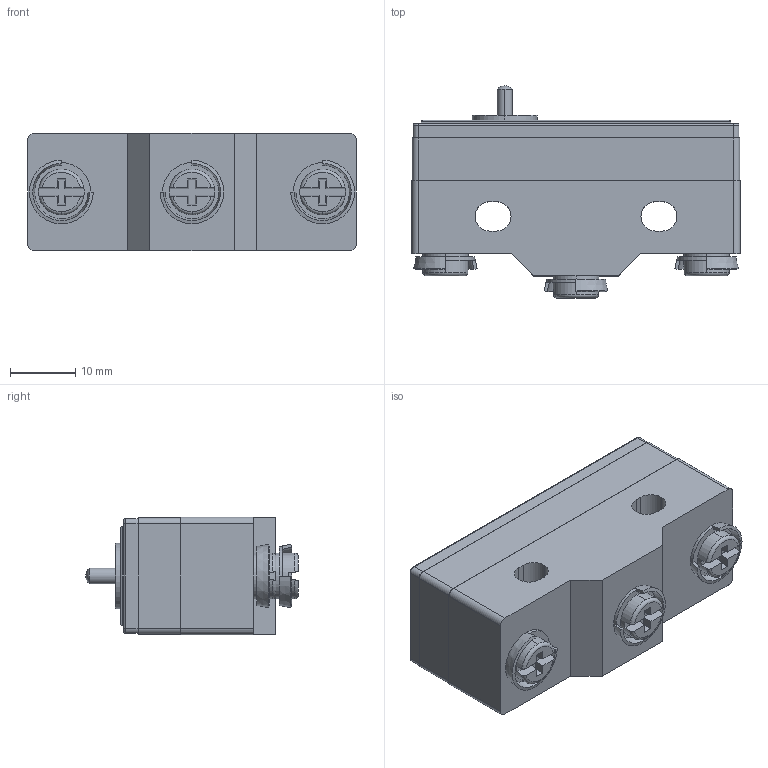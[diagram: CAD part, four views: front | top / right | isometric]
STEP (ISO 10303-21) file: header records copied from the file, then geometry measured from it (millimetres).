
FILE_DESCRIPTION (( 'STEP AP203' ), '1' );
FILE_NAME ('FM1300.STEP', '2018-03-23T13:25:49', ( '' ), ( '' ), 'SwSTEP 2.0', 'SolidWorks 2012', '' );
FILE_SCHEMA (( 'CONFIG_CONTROL_DESIGN' ));
Length unit declared in the file: millimetre
Products named in the file (1): FM1300
Bounding box: 50.3 x 32.5 x 18 mm (x, y, z)
Volume: 18979.8 mm3; surface area: 5909 mm2
Topology: 1 solids, 1 shells, 160 faces, 409 edges, 265 vertices
Faces by surface type: plane 82, cylinder 47, torus 15, cone 15, sphere 1
Entity records: 4949 total; most frequent: CARTESIAN_POINT 938, DIRECTION 842, ORIENTED_EDGE 812, EDGE_CURVE 406, AXIS2_PLACEMENT_3D 303, VERTEX_POINT 263, VECTOR 236, LINE 236
